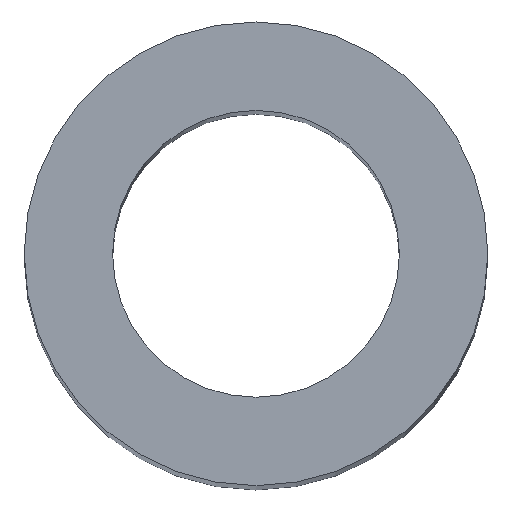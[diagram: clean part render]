
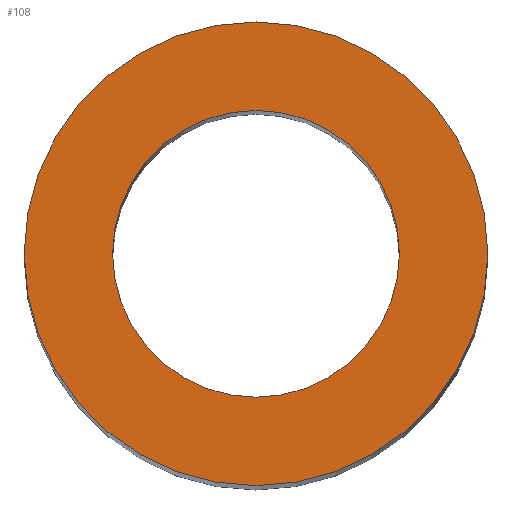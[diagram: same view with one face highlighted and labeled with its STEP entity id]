
A CAD part, top view. The second image highlights one B-rep face of the part: STEP entity #108.
In plain terms, the highlighted planar face has unit normal (0, 0, 1).
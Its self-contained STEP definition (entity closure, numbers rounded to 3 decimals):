
#8 = EDGE_CURVE ( 'NONE', #23, #42, #178, .T. ) ;
#23 = VERTEX_POINT ( 'NONE', #141 ) ;
#31 = VERTEX_POINT ( 'NONE', #120 ) ;
#34 = EDGE_CURVE ( 'NONE', #31, #36, #118, .T. ) ;
#36 = VERTEX_POINT ( 'NONE', #239 ) ;
#42 = VERTEX_POINT ( 'NONE', #219 ) ;
#43 = EDGE_CURVE ( 'NONE', #42, #23, #218, .T. ) ;
#67 = ORIENTED_EDGE ( 'NONE', *, *, #34, .T. ) ;
#73 = EDGE_LOOP ( 'NONE', ( #80, #77 ) ) ;
#77 = ORIENTED_EDGE ( 'NONE', *, *, #8, .T. ) ;
#80 = ORIENTED_EDGE ( 'NONE', *, *, #43, .T. ) ;
#97 = ORIENTED_EDGE ( 'NONE', *, *, #101, .T. ) ;
#101 = EDGE_CURVE ( 'NONE', #36, #31, #319, .T. ) ;
#108 = ADVANCED_FACE ( 'NONE', ( #313, #256 ), #255, .F. ) ;
#109 = EDGE_LOOP ( 'NONE', ( #97, #67 ) ) ;
#114 = DIRECTION ( 'NONE',  ( 0., 1., 0. ) ) ;
#115 = DIRECTION ( 'NONE',  ( 0., 0., -1. ) ) ;
#116 = CARTESIAN_POINT ( 'NONE',  ( 0., 0., 0. ) ) ;
#117 = AXIS2_PLACEMENT_3D ( 'NONE', #116, #115, #114 ) ;
#118 = CIRCLE ( 'NONE', #117, 5.722 ) ;
#120 = CARTESIAN_POINT ( 'NONE',  ( 0., -5.722, 0. ) ) ;
#141 = CARTESIAN_POINT ( 'NONE',  ( -9.25, 0., 0. ) ) ;
#169 = DIRECTION ( 'NONE',  ( 1., 0., 0. ) ) ;
#170 = DIRECTION ( 'NONE',  ( 0., 0., 1. ) ) ;
#171 = AXIS2_PLACEMENT_3D ( 'NONE', #176, #170, #169 ) ;
#176 = CARTESIAN_POINT ( 'NONE',  ( 0., 0., 0. ) ) ;
#178 = CIRCLE ( 'NONE', #171, 9.25 ) ;
#218 = CIRCLE ( 'NONE', #236, 9.25 ) ;
#219 = CARTESIAN_POINT ( 'NONE',  ( 9.25, 0., 0. ) ) ;
#233 = DIRECTION ( 'NONE',  ( 1., 0., 0. ) ) ;
#234 = DIRECTION ( 'NONE',  ( 0., 0., 1. ) ) ;
#235 = CARTESIAN_POINT ( 'NONE',  ( 0., 0., 0. ) ) ;
#236 = AXIS2_PLACEMENT_3D ( 'NONE', #235, #234, #233 ) ;
#239 = CARTESIAN_POINT ( 'NONE',  ( 0., 5.722, 0. ) ) ;
#250 = DIRECTION ( 'NONE',  ( -1., 0., 0. ) ) ;
#251 = DIRECTION ( 'NONE',  ( 0., 0., -1. ) ) ;
#252 = AXIS2_PLACEMENT_3D ( 'NONE', #254, #251, #250 ) ;
#254 = CARTESIAN_POINT ( 'NONE',  ( 0., 9.25, 0. ) ) ;
#255 = PLANE ( 'NONE',  #252 ) ;
#256 = FACE_OUTER_BOUND ( 'NONE', #73, .T. ) ;
#313 = FACE_BOUND ( 'NONE', #109, .T. ) ;
#316 = DIRECTION ( 'NONE',  ( 0., 1., 0. ) ) ;
#317 = DIRECTION ( 'NONE',  ( 0., 0., -1. ) ) ;
#318 = AXIS2_PLACEMENT_3D ( 'NONE', #345, #317, #316 ) ;
#319 = CIRCLE ( 'NONE', #318, 5.722 ) ;
#345 = CARTESIAN_POINT ( 'NONE',  ( 0., 0., 0. ) ) ;
